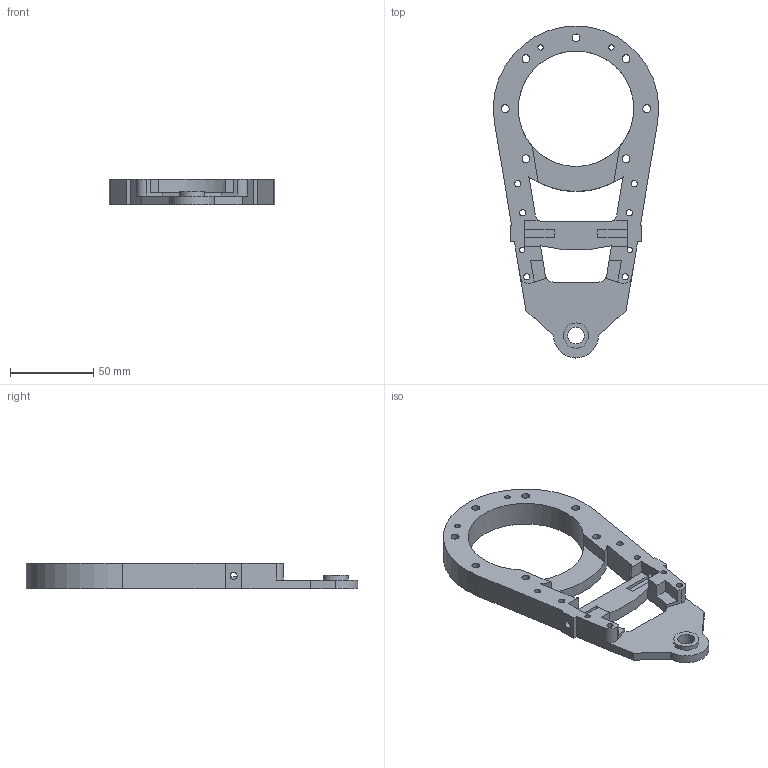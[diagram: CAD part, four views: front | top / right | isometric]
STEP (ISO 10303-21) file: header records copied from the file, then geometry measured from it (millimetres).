
FILE_DESCRIPTION(/* description */ (''),/* implementation_level */ '2;1');
FILE_NAME(/* name */ 'Leg_Hip v1.step',/* time_stamp */ '2025-10-21T12:10:18-07:00',/* author */ (''),/* organization */ (''),/* preprocessor_version */ 'ST-DEVELOPER v20.1',/* originating_system */ 'Autodesk Translation Framework v14.17.0.0',/* authorisation */ '');
FILE_SCHEMA (('AUTOMOTIVE_DESIGN { 1 0 10303 214 3 1 1 }'));
Length unit declared in the file: millimetre
Products named in the file (1): Leg_Hip
Bounding box: 99.36 x 199.39 x 15.12 mm (x, y, z)
Volume: 95859.4 mm3; surface area: 34460.5 mm2
Topology: 1 solids, 1 shells, 80 faces, 240 edges, 160 vertices
Faces by surface type: plane 48, cylinder 32
Full cylindrical faces by diameter (mm): 3.25 x4, 3.75 x6, 4.2 x2, 4.75 x7, 10.095 x1, 15.095 x1, 69.388 x1
Entity records: 2841 total; most frequent: CARTESIAN_POINT 481, ORIENTED_EDGE 480, DIRECTION 474, EDGE_CURVE 240, LINE 168, VECTOR 168, VERTEX_POINT 160, AXIS2_PLACEMENT_3D 153
